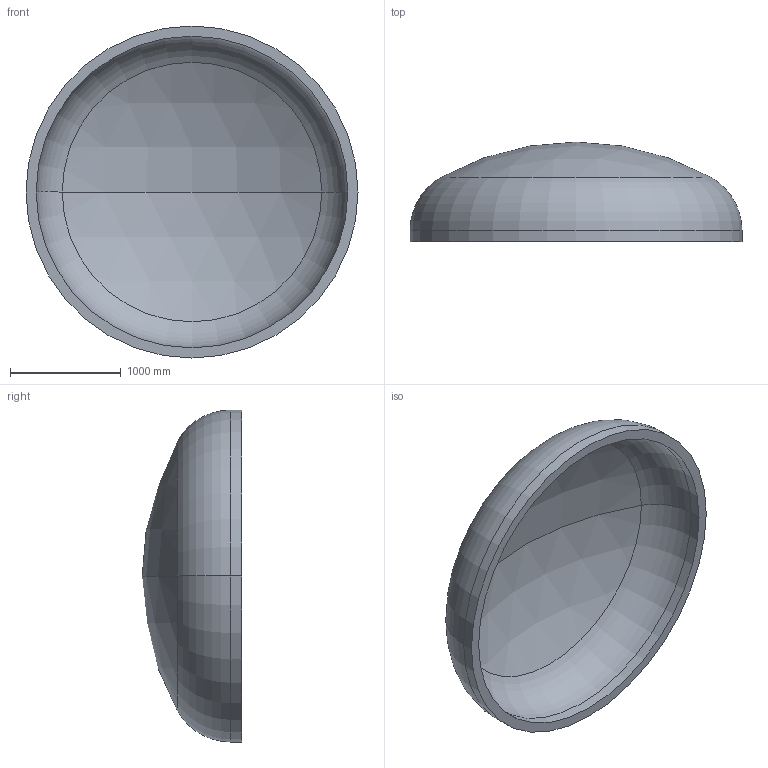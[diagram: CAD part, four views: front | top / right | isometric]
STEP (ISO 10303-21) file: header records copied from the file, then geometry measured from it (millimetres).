
FILE_DESCRIPTION (( 'STEP AP203' ), '1' );
FILE_NAME ('DIN 28013 Korbbogenform_-_Boden DIN 28013 - 3000 x 100 - I - s=92.step', '2016-07-01T18:04:32', ( '' ), ( '' ), 'SwSTEP 2.0', 'SolidWorks 2013', '' );
FILE_SCHEMA (( 'CONFIG_CONTROL_DESIGN' ));
Length unit declared in the file: millimetre
Products named in the file (1): DIN 28013 Korbbogenform_-_Boden DIN 28013 - 3000 x 100 - I - s=92
Bounding box: 3000 x 899.4 x 3000 mm (x, y, z)
Volume: 948614185 mm3; surface area: 21480256.9 mm2
Topology: 1 solids, 1 shells, 13 faces, 24 edges, 14 vertices
Faces by surface type: torus 4, cylinder 4, sphere 4, plane 1
Entity records: 407 total; most frequent: DIRECTION 72, CARTESIAN_POINT 52, ORIENTED_EDGE 48, AXIS2_PLACEMENT_3D 34, EDGE_CURVE 24, CIRCLE 20, VERTEX_POINT 14, EDGE_LOOP 14
